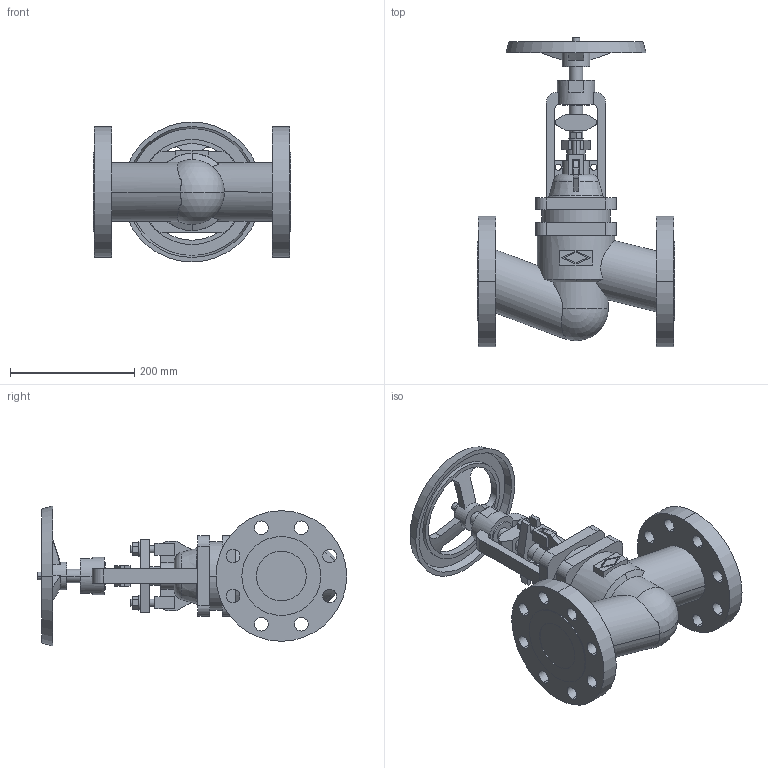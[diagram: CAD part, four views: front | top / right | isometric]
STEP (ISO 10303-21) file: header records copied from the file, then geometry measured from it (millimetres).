
FILE_DESCRIPTION(('OneSpaceDesigner STEP Export'),'2;1');
FILE_NAME('c000004217.stp','2010-04-30T 9:45:34',(''),(''),'OneSpace Designer STEP processor for AP214 (Solid Model)','OneSpace Modeling 15.50B 03-Nov-2007 (C) CoCreate Software GmbH','');
FILE_SCHEMA(('AUTOMOTIVE_DESIGN { 1 0 10303 214 1 1 1 1 }'));
Length unit declared in the file: millimetre
Products named in the file (1): 1
Bounding box: 317 x 497.4 x 225 mm (x, y, z)
Volume: 6296870.2 mm3; surface area: 510246.9 mm2
Topology: 1 solids, 1 shells, 309 faces, 818 edges, 536 vertices
Faces by surface type: plane 156, cylinder 121, cone 20, torus 10, sphere 2
Entity records: 12153 total; most frequent: CARTESIAN_POINT 2386, ORIENTED_EDGE 1632, DIRECTION 1344, EDGE_CURVE 816, VERTEX_POINT 536, AXIS2_PLACEMENT_3D 451, VECTOR 442, LINE 442
